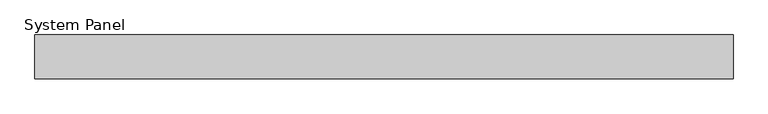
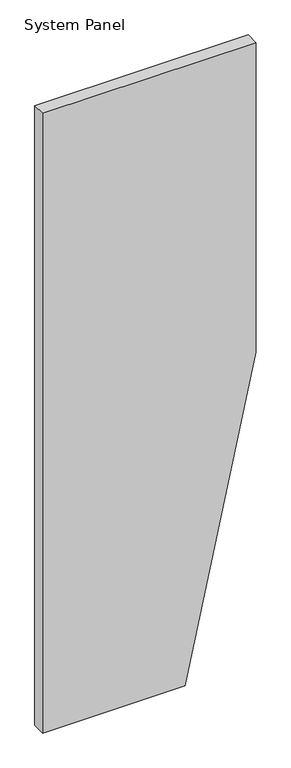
"""IFC4 building model written with IfcOpenShell, lengths in millimetres: plate geometry, System Panel : Equitilt 75mm Vertical - Plain RHEA - MW."""

from ifc_helpers import new_model, si_unit, frame, origin, place, context, project, spatial, polyline, outline, extrude, source, transform, mapped, element, save


def system_panel_244e55d7(model_context):
    return source(origin(), model_context, "Body", "SweptSolid", [
        extrude(outline(polyline([(0.0, -600.0), (0.0, 200.0), (1839.9852118, 600.0), (3679.9704237, 600.0), (3679.9704237, -600.0), (0.0, -600.0)])), frame((0.0, -75.0, 0.0), z_axis=(0.0, 1.0, 0.0), x_axis=(0.0, 0.0, 1.0)), (0.0, 0.0, 1.0), 75.0),
    ])


if __name__ == "__main__":
    model = new_model("IFC4")
    model_context = context("Model", 3, world=origin())
    ifc_project = project(units=[si_unit("LENGTHUNIT", "METRE", prefix="MILLI")], contexts=[model_context])
    site = spatial("IfcSite", under=ifc_project)
    building = spatial("IfcBuilding", under=site)
    placement = place(None, origin())
    system_panel_shape = system_panel_244e55d7(model_context)
    element("IfcPlate", 1, ObjectType="System Panel : Equitilt 75mm Vertical - Plain RHEA - MW", at=placement, inside=building, context=model_context, shape_type="MappedRepresentation", body=[
        mapped(system_panel_shape, transform((0.0, 0.0, 0.0), x_axis=(1.0, 0.0, 0.0), y_axis=(0.0, 1.0, 0.0), z_axis=(0.0, 0.0, 1.0))),
    ])
    save(model, "model.ifc")
